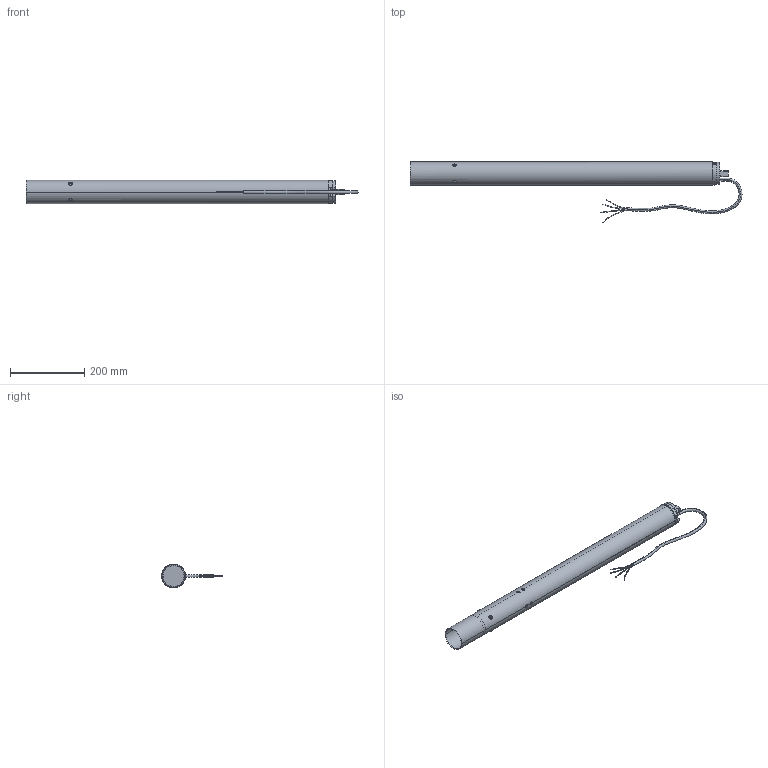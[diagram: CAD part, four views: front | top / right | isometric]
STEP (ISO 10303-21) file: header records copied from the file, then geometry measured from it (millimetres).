
FILE_DESCRIPTION (( 'STEP AP214' ), '1' );
FILE_NAME ('RMA 20.1212 17220.1212.63_STEP_20150211.STEP', '2015-02-11T10:02:01', ( '' ), ( '' ), 'SwSTEP 2.0', 'SolidWorks 2013', '' );
FILE_SCHEMA (( 'AUTOMOTIVE_DESIGN' ));
Length unit declared in the file: millimetre
Products named in the file (1): RMA 20.1212 17220.1212.63_STEP_20150211
Bounding box: 895.6 x 163.58 x 64.3 mm (x, y, z)
Surface area: 542309.2 mm2 (no closed solid volume)
Topology: 0 solids, 65 shells, 1970 faces, 5374 edges, 3567 vertices
Faces by surface type: plane 888, cylinder 641, bspline 356, cone 85
Entity records: 111287 total; most frequent: CARTESIAN_POINT 43505, ORIENTED_EDGE 10421, DIRECTION 8100, EDGE_CURVE 5366, VERTEX_POINT 3566, VECTOR 2754, LINE 2754, AXIS2_PLACEMENT_3D 2673
